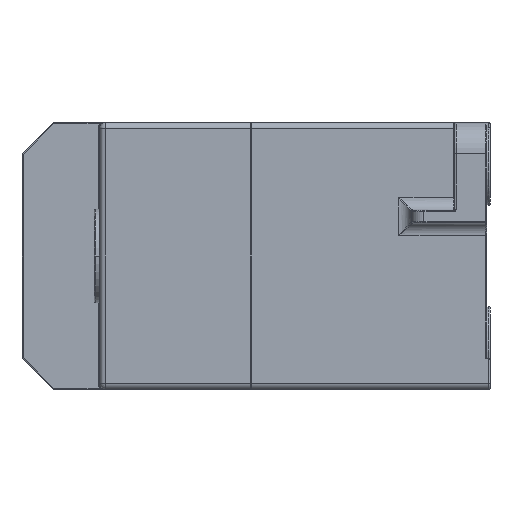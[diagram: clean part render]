
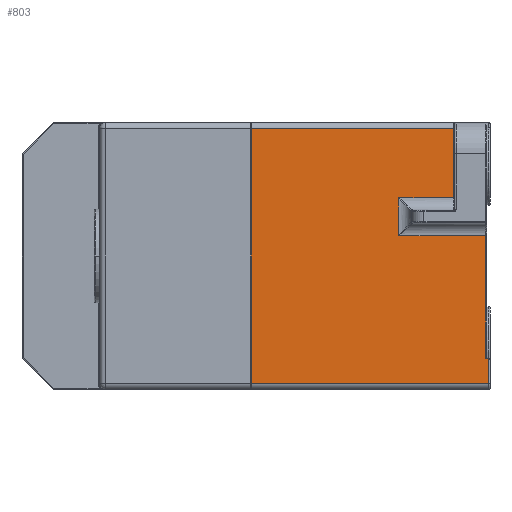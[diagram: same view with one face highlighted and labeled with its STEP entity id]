
A CAD part, left-side view. The second image highlights one B-rep face of the part: STEP entity #803.
In plain terms, the highlighted planar face has unit normal (-1, 0, 0).
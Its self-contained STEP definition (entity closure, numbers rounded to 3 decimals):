
#107 = CARTESIAN_POINT ( 'NONE',  ( -28.25, 5.3, 9.25 ) ) ;
#122 = EDGE_CURVE ( 'NONE', #460, #10678, #13985, .T. ) ;
#161 = EDGE_CURVE ( 'NONE', #2768, #7549, #3481, .T. ) ;
#299 = DIRECTION ( 'NONE',  ( 1., 0., 0. ) ) ;
#366 = DIRECTION ( 'NONE',  ( 0., 0., 1. ) ) ;
#385 = VERTEX_POINT ( 'NONE', #8203 ) ;
#460 = VERTEX_POINT ( 'NONE', #7286 ) ;
#518 = CARTESIAN_POINT ( 'NONE',  ( -28.25, -0.3, -21.25 ) ) ;
#617 = EDGE_CURVE ( 'NONE', #385, #7333, #16169, .T. ) ;
#764 = VECTOR ( 'NONE', #15244, 1000. ) ;
#803 = ADVANCED_FACE ( 'NONE', ( #3448 ), #1486, .F. ) ;
#949 = EDGE_CURVE ( 'NONE', #7549, #460, #14959, .T. ) ;
#975 = CARTESIAN_POINT ( 'NONE',  ( -28.25, 14., -21.25 ) ) ;
#1043 = CARTESIAN_POINT ( 'NONE',  ( -28.25, 5.3, 20.25 ) ) ;
#1252 = VERTEX_POINT ( 'NONE', #107 ) ;
#1486 = PLANE ( 'NONE',  #14866 ) ;
#1652 = ORIENTED_EDGE ( 'NONE', *, *, #14554, .F. ) ;
#2019 = ORIENTED_EDGE ( 'NONE', *, *, #5173, .T. ) ;
#2368 = DIRECTION ( 'NONE',  ( 0., 1., 0. ) ) ;
#2656 = VECTOR ( 'NONE', #2368, 1000. ) ;
#2768 = VERTEX_POINT ( 'NONE', #8055 ) ;
#2912 = VERTEX_POINT ( 'NONE', #15362 ) ;
#3448 = FACE_OUTER_BOUND ( 'NONE', #11093, .T. ) ;
#3481 = LINE ( 'NONE', #15741, #12334 ) ;
#3502 = VECTOR ( 'NONE', #10011, 1000. ) ;
#3610 = VERTEX_POINT ( 'NONE', #1043 ) ;
#3804 = VECTOR ( 'NONE', #14829, 1000. ) ;
#4433 = ORIENTED_EDGE ( 'NONE', *, *, #16237, .T. ) ;
#4565 = CARTESIAN_POINT ( 'NONE',  ( -28.25, 37.5, 20.25 ) ) ;
#4718 = DIRECTION ( 'NONE',  ( 0., 0., 1. ) ) ;
#5173 = EDGE_CURVE ( 'NONE', #1252, #3610, #11228, .T. ) ;
#5731 = CARTESIAN_POINT ( 'NONE',  ( -28.25, 37.5, -21.25 ) ) ;
#5774 = DIRECTION ( 'NONE',  ( 0., 0., 1. ) ) ;
#6461 = ORIENTED_EDGE ( 'NONE', *, *, #13408, .T. ) ;
#6663 = DIRECTION ( 'NONE',  ( 0., -1., 0. ) ) ;
#6930 = ORIENTED_EDGE ( 'NONE', *, *, #122, .T. ) ;
#6983 = CARTESIAN_POINT ( 'NONE',  ( -28.25, 0.2, 3.25 ) ) ;
#6993 = DIRECTION ( 'NONE',  ( 0., 1., 0. ) ) ;
#7286 = CARTESIAN_POINT ( 'NONE',  ( -28.25, -0.3, -16.25 ) ) ;
#7333 = VERTEX_POINT ( 'NONE', #13633 ) ;
#7378 = CARTESIAN_POINT ( 'NONE',  ( -28.25, 0.2, -21.25 ) ) ;
#7549 = VERTEX_POINT ( 'NONE', #8655 ) ;
#7767 = LINE ( 'NONE', #4565, #8366 ) ;
#7866 = LINE ( 'NONE', #7378, #3502 ) ;
#8055 = CARTESIAN_POINT ( 'NONE',  ( -28.25, 37.5, -20.25 ) ) ;
#8203 = CARTESIAN_POINT ( 'NONE',  ( -28.25, 14., 3.25 ) ) ;
#8366 = VECTOR ( 'NONE', #9867, 1000. ) ;
#8655 = CARTESIAN_POINT ( 'NONE',  ( -28.25, -0.3, -20.25 ) ) ;
#9840 = CARTESIAN_POINT ( 'NONE',  ( -28.25, 0.2, -16.25 ) ) ;
#9867 = DIRECTION ( 'NONE',  ( 0., 1., 0. ) ) ;
#10011 = DIRECTION ( 'NONE',  ( 0., 0., 1. ) ) ;
#10057 = LINE ( 'NONE', #5731, #13748 ) ;
#10259 = VECTOR ( 'NONE', #5774, 1000. ) ;
#10283 = CARTESIAN_POINT ( 'NONE',  ( -28.25, -0.5, -16.25 ) ) ;
#10419 = ORIENTED_EDGE ( 'NONE', *, *, #17011, .T. ) ;
#10593 = CARTESIAN_POINT ( 'NONE',  ( -28.25, 37.5, -21.25 ) ) ;
#10678 = VERTEX_POINT ( 'NONE', #9840 ) ;
#10748 = ORIENTED_EDGE ( 'NONE', *, *, #949, .T. ) ;
#11093 = EDGE_LOOP ( 'NONE', ( #12649, #10748, #6930, #6461, #10419, #13731, #4433, #2019, #15514, #1652 ) ) ;
#11228 = LINE ( 'NONE', #12247, #3804 ) ;
#12247 = CARTESIAN_POINT ( 'NONE',  ( -28.25, 5.3, -21.25 ) ) ;
#12334 = VECTOR ( 'NONE', #6663, 1000. ) ;
#12453 = VECTOR ( 'NONE', #6993, 1000. ) ;
#12611 = CARTESIAN_POINT ( 'NONE',  ( -28.25, 5.1, 9.25 ) ) ;
#12649 = ORIENTED_EDGE ( 'NONE', *, *, #161, .T. ) ;
#13124 = VECTOR ( 'NONE', #4718, 1000. ) ;
#13193 = VERTEX_POINT ( 'NONE', #6983 ) ;
#13223 = DIRECTION ( 'NONE',  ( 0., 0., -1. ) ) ;
#13408 = EDGE_CURVE ( 'NONE', #10678, #13193, #7866, .T. ) ;
#13633 = CARTESIAN_POINT ( 'NONE',  ( -28.25, 14., 9.25 ) ) ;
#13683 = CARTESIAN_POINT ( 'NONE',  ( -28.25, 37.5, 3.25 ) ) ;
#13731 = ORIENTED_EDGE ( 'NONE', *, *, #617, .T. ) ;
#13748 = VECTOR ( 'NONE', #366, 1000. ) ;
#13985 = LINE ( 'NONE', #10283, #2656 ) ;
#14554 = EDGE_CURVE ( 'NONE', #2768, #2912, #10057, .T. ) ;
#14829 = DIRECTION ( 'NONE',  ( 0., 0., 1. ) ) ;
#14866 = AXIS2_PLACEMENT_3D ( 'NONE', #10593, #299, #13223 ) ;
#14925 = LINE ( 'NONE', #13683, #12453 ) ;
#14959 = LINE ( 'NONE', #518, #10259 ) ;
#15244 = DIRECTION ( 'NONE',  ( 0., -1., 0. ) ) ;
#15362 = CARTESIAN_POINT ( 'NONE',  ( -28.25, 37.5, 20.25 ) ) ;
#15514 = ORIENTED_EDGE ( 'NONE', *, *, #16601, .T. ) ;
#15741 = CARTESIAN_POINT ( 'NONE',  ( -28.25, 37.5, -20.25 ) ) ;
#16169 = LINE ( 'NONE', #975, #13124 ) ;
#16237 = EDGE_CURVE ( 'NONE', #7333, #1252, #16962, .T. ) ;
#16601 = EDGE_CURVE ( 'NONE', #3610, #2912, #7767, .T. ) ;
#16962 = LINE ( 'NONE', #12611, #764 ) ;
#17011 = EDGE_CURVE ( 'NONE', #13193, #385, #14925, .T. ) ;
